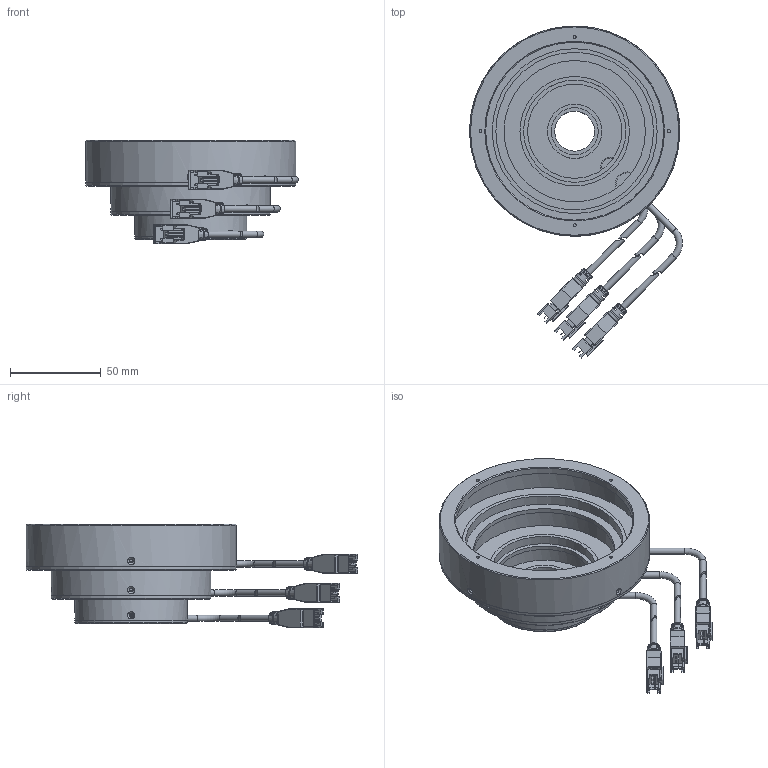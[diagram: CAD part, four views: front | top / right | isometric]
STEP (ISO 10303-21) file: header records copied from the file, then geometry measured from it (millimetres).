
FILE_DESCRIPTION (( 'STEP AP203' ), '1' );
FILE_NAME ('CST-SAI11622-¼òÒ×3DÍ¼.STEP', '2021-12-23T05:54:45', ( '' ), ( '' ), 'SwSTEP 2.0', 'SolidWorks 2018', '' );
FILE_SCHEMA (( 'CONFIG_CONTROL_DESIGN' ));
Length unit declared in the file: millimetre
Products named in the file (2): CST-SAI11622-潠眢3D芞
Bounding box: 117.44 x 183.18 x 57.15 mm (x, y, z)
Surface area: 70570.2 mm2 (no closed solid volume)
Topology: 0 solids, 13 shells, 587 faces, 1826 edges, 1196 vertices
Faces by surface type: plane 330, cylinder 199, bspline 28, cone 21, torus 9
Full cylindrical faces by diameter (mm): 1.6 x4, 2.2 x12, 2.5 x4, 3.5 x9, 22 x1, 26 x1, 30 x1, 52.009 x1, 56 x1, 56.409 x1, 62 x2, 78.002 x1, 82.002 x1, 87.002 x1, 88.002 x2, 98.237 x1, 109.999 x1, 115.999 x2
Entity records: 22957 total; most frequent: CARTESIAN_POINT 7638, DIRECTION 3086, ORIENTED_EDGE 2852, EDGE_CURVE 1688, VERTEX_POINT 1148, VECTOR 1032, LINE 1032, AXIS2_PLACEMENT_3D 1027
